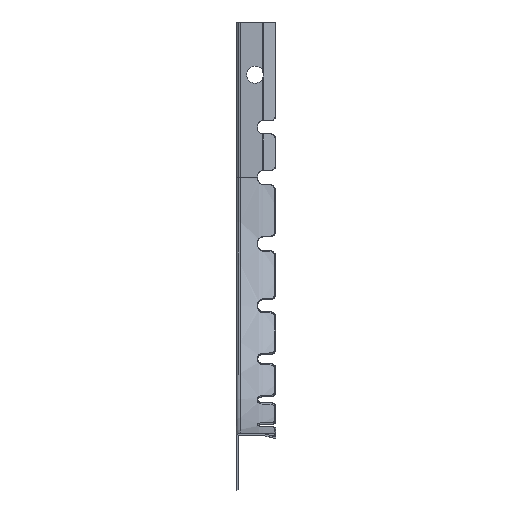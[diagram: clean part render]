
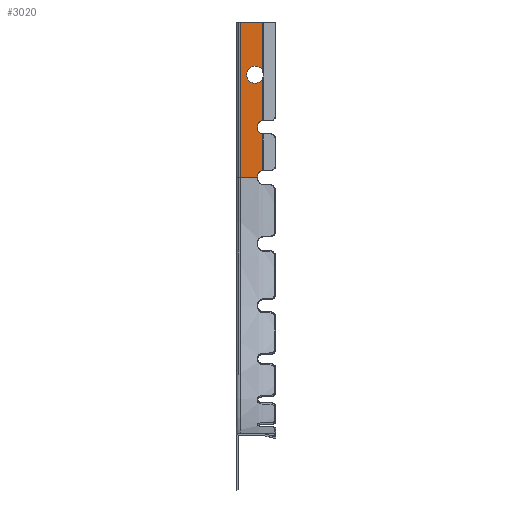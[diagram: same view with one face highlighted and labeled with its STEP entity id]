
A CAD part, left-side view. The second image highlights one B-rep face of the part: STEP entity #3020.
In plain terms, the highlighted planar face has unit normal (-1, 0, 0).
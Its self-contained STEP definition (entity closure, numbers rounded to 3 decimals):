
#274 = ORIENTED_EDGE ( 'NONE', *, *, #4557, .T. ) ;
#376 = CARTESIAN_POINT ( 'NONE',  ( -100.7, -9.445, 216.5 ) ) ;
#421 = CARTESIAN_POINT ( 'NONE',  ( -100.7, 0., 198.01 ) ) ;
#636 = VERTEX_POINT ( 'NONE', #1815 ) ;
#782 = ORIENTED_EDGE ( 'NONE', *, *, #2922, .T. ) ;
#1461 = DIRECTION ( 'NONE',  ( 0., 0., 1. ) ) ;
#1463 = CARTESIAN_POINT ( 'NONE',  ( -100.7, -9.195, 200.494 ) ) ;
#1590 = CIRCLE ( 'NONE', #8805, 3.25 ) ;
#1647 = ORIENTED_EDGE ( 'NONE', *, *, #11623, .T. ) ;
#1815 = CARTESIAN_POINT ( 'NONE',  ( -100.7, -7.445, 217.5 ) ) ;
#2224 = VECTOR ( 'NONE', #10717, 1000. ) ;
#2319 = ORIENTED_EDGE ( 'NONE', *, *, #6548, .T. ) ;
#2454 = VERTEX_POINT ( 'NONE', #3292 ) ;
#2540 = AXIS2_PLACEMENT_3D ( 'NONE', #14493, #3384, #7623 ) ;
#2638 = CARTESIAN_POINT ( 'NONE',  ( -100.7, -6.445, 237. ) ) ;
#2697 = VERTEX_POINT ( 'NONE', #5182 ) ;
#2724 = DIRECTION ( 'NONE',  ( 0., 1., 0. ) ) ;
#2922 = EDGE_CURVE ( 'NONE', #8990, #3244, #9379, .T. ) ;
#2986 = CARTESIAN_POINT ( 'NONE',  ( -100.7, -0.8, 257. ) ) ;
#3020 = ADVANCED_FACE ( 'NONE', ( #11856 ), #17612, .F. ) ;
#3244 = VERTEX_POINT ( 'NONE', #7282 ) ;
#3292 = CARTESIAN_POINT ( 'NONE',  ( -100.7, -7.445, 198.01 ) ) ;
#3337 = DIRECTION ( 'NONE',  ( 0., 0., 1. ) ) ;
#3340 = VECTOR ( 'NONE', #10076, 1000. ) ;
#3384 = DIRECTION ( 'NONE',  ( 1., 0., 0. ) ) ;
#3629 = VECTOR ( 'NONE', #8453, 1000. ) ;
#3737 = DIRECTION ( 'NONE',  ( 0., 0., 1. ) ) ;
#3817 = CARTESIAN_POINT ( 'NONE',  ( -100.7, -9.445, 217.5 ) ) ;
#3840 = CARTESIAN_POINT ( 'NONE',  ( -100.7, -9.3, 257. ) ) ;
#3997 = EDGE_CURVE ( 'NONE', #11663, #17092, #1590, .T. ) ;
#4113 = CARTESIAN_POINT ( 'NONE',  ( -100.7, -9.195, 198.01 ) ) ;
#4491 = DIRECTION ( 'NONE',  ( 0., 1., 0. ) ) ;
#4503 = CIRCLE ( 'NONE', #11738, 2. ) ;
#4557 = EDGE_CURVE ( 'NONE', #2454, #8495, #4910, .T. ) ;
#4768 = CIRCLE ( 'NONE', #12283, 3.25 ) ;
#4910 = LINE ( 'NONE', #4992, #5635 ) ;
#4934 = EDGE_LOOP ( 'NONE', ( #7772, #2319, #11956, #1647, #17582, #16184, #16615, #274, #9056, #10492, #782, #13119, #12113, #7194 ) ) ;
#4992 = CARTESIAN_POINT ( 'NONE',  ( -100.7, -7.445, 195.51 ) ) ;
#5182 = CARTESIAN_POINT ( 'NONE',  ( -100.7, -6.445, 240.25 ) ) ;
#5189 = LINE ( 'NONE', #3840, #2224 ) ;
#5450 = CARTESIAN_POINT ( 'NONE',  ( -100.7, -9.195, 219.484 ) ) ;
#5465 = LINE ( 'NONE', #4113, #3340 ) ;
#5635 = VECTOR ( 'NONE', #10149, 1000. ) ;
#6263 = VERTEX_POINT ( 'NONE', #10060 ) ;
#6454 = EDGE_CURVE ( 'NONE', #2697, #12776, #17471, .T. ) ;
#6548 = EDGE_CURVE ( 'NONE', #17092, #2697, #4768, .T. ) ;
#6644 = CARTESIAN_POINT ( 'NONE',  ( -100.7, -9.195, 257. ) ) ;
#6790 = DIRECTION ( 'NONE',  ( 1., 0., 0. ) ) ;
#6795 = AXIS2_PLACEMENT_3D ( 'NONE', #2638, #6790, #12315 ) ;
#7177 = EDGE_CURVE ( 'NONE', #3244, #636, #12655, .T. ) ;
#7194 = ORIENTED_EDGE ( 'NONE', *, *, #8074, .T. ) ;
#7282 = CARTESIAN_POINT ( 'NONE',  ( -100.7, -7.445, 216.5 ) ) ;
#7623 = DIRECTION ( 'NONE',  ( 0., 1., 0. ) ) ;
#7772 = ORIENTED_EDGE ( 'NONE', *, *, #3997, .T. ) ;
#8074 = EDGE_CURVE ( 'NONE', #9950, #11663, #5465, .T. ) ;
#8100 = EDGE_CURVE ( 'NONE', #17750, #8990, #10161, .T. ) ;
#8453 = DIRECTION ( 'NONE',  ( 0., 0., 1. ) ) ;
#8495 = VERTEX_POINT ( 'NONE', #12461 ) ;
#8629 = CARTESIAN_POINT ( 'NONE',  ( -100.7, -9.195, 198.01 ) ) ;
#8805 = AXIS2_PLACEMENT_3D ( 'NONE', #13579, #15103, #1461 ) ;
#8990 = VERTEX_POINT ( 'NONE', #17594 ) ;
#9039 = DIRECTION ( 'NONE',  ( 1., 0., 0. ) ) ;
#9056 = ORIENTED_EDGE ( 'NONE', *, *, #17602, .T. ) ;
#9250 = DIRECTION ( 'NONE',  ( 0., 0., 1. ) ) ;
#9330 = CARTESIAN_POINT ( 'NONE',  ( -100.7, -9.195, 198.01 ) ) ;
#9379 = CIRCLE ( 'NONE', #17746, 2. ) ;
#9402 = EDGE_CURVE ( 'NONE', #636, #9950, #4503, .T. ) ;
#9748 = EDGE_CURVE ( 'NONE', #6263, #10085, #5189, .T. ) ;
#9773 = LINE ( 'NONE', #2986, #12957 ) ;
#9950 = VERTEX_POINT ( 'NONE', #5450 ) ;
#10060 = CARTESIAN_POINT ( 'NONE',  ( -100.7, -0.8, 257. ) ) ;
#10076 = DIRECTION ( 'NONE',  ( 0., 0., 1. ) ) ;
#10085 = VERTEX_POINT ( 'NONE', #6644 ) ;
#10100 = LINE ( 'NONE', #421, #16627 ) ;
#10149 = DIRECTION ( 'NONE',  ( 0., 0., 1. ) ) ;
#10161 = LINE ( 'NONE', #8629, #3629 ) ;
#10492 = ORIENTED_EDGE ( 'NONE', *, *, #8100, .T. ) ;
#10585 = CARTESIAN_POINT ( 'NONE',  ( -100.7, 0., 257. ) ) ;
#10609 = LINE ( 'NONE', #9330, #10894 ) ;
#10717 = DIRECTION ( 'NONE',  ( 0., -1., 0. ) ) ;
#10875 = EDGE_CURVE ( 'NONE', #2454, #13365, #10100, .T. ) ;
#10894 = VECTOR ( 'NONE', #9250, 1000. ) ;
#11623 = EDGE_CURVE ( 'NONE', #12776, #10085, #10609, .T. ) ;
#11663 = VERTEX_POINT ( 'NONE', #13745 ) ;
#11738 = AXIS2_PLACEMENT_3D ( 'NONE', #3817, #12223, #2724 ) ;
#11856 = FACE_OUTER_BOUND ( 'NONE', #4934, .T. ) ;
#11956 = ORIENTED_EDGE ( 'NONE', *, *, #6454, .T. ) ;
#12113 = ORIENTED_EDGE ( 'NONE', *, *, #9402, .T. ) ;
#12223 = DIRECTION ( 'NONE',  ( 1., 0., 0. ) ) ;
#12283 = AXIS2_PLACEMENT_3D ( 'NONE', #17465, #16109, #3737 ) ;
#12315 = DIRECTION ( 'NONE',  ( 0., 0., 1. ) ) ;
#12461 = CARTESIAN_POINT ( 'NONE',  ( -100.7, -7.445, 198.51 ) ) ;
#12483 = DIRECTION ( 'NONE',  ( 0., 0., 1. ) ) ;
#12577 = VECTOR ( 'NONE', #3337, 1000. ) ;
#12655 = LINE ( 'NONE', #15618, #12577 ) ;
#12776 = VERTEX_POINT ( 'NONE', #16186 ) ;
#12957 = VECTOR ( 'NONE', #12483, 1000. ) ;
#13119 = ORIENTED_EDGE ( 'NONE', *, *, #7177, .T. ) ;
#13288 = DIRECTION ( 'NONE',  ( 0., -1., 0. ) ) ;
#13365 = VERTEX_POINT ( 'NONE', #15246 ) ;
#13579 = CARTESIAN_POINT ( 'NONE',  ( -100.7, -6.445, 237. ) ) ;
#13745 = CARTESIAN_POINT ( 'NONE',  ( -100.7, -9.195, 235.267 ) ) ;
#14493 = CARTESIAN_POINT ( 'NONE',  ( -100.7, -9.445, 198.51 ) ) ;
#14863 = AXIS2_PLACEMENT_3D ( 'NONE', #10585, #9039, #13288 ) ;
#14973 = EDGE_CURVE ( 'NONE', #13365, #6263, #9773, .T. ) ;
#15103 = DIRECTION ( 'NONE',  ( 1., 0., 0. ) ) ;
#15246 = CARTESIAN_POINT ( 'NONE',  ( -100.7, -0.8, 198.01 ) ) ;
#15297 = DIRECTION ( 'NONE',  ( 1., 0., 0. ) ) ;
#15470 = DIRECTION ( 'NONE',  ( 0., 1., 0. ) ) ;
#15524 = CIRCLE ( 'NONE', #2540, 2. ) ;
#15618 = CARTESIAN_POINT ( 'NONE',  ( -100.7, -7.445, 214.5 ) ) ;
#16109 = DIRECTION ( 'NONE',  ( 1., 0., 0. ) ) ;
#16184 = ORIENTED_EDGE ( 'NONE', *, *, #14973, .F. ) ;
#16186 = CARTESIAN_POINT ( 'NONE',  ( -100.7, -9.195, 238.733 ) ) ;
#16615 = ORIENTED_EDGE ( 'NONE', *, *, #10875, .F. ) ;
#16627 = VECTOR ( 'NONE', #4491, 1000. ) ;
#16696 = CARTESIAN_POINT ( 'NONE',  ( -100.7, -6.445, 233.75 ) ) ;
#17092 = VERTEX_POINT ( 'NONE', #16696 ) ;
#17465 = CARTESIAN_POINT ( 'NONE',  ( -100.7, -6.445, 237. ) ) ;
#17471 = CIRCLE ( 'NONE', #6795, 3.25 ) ;
#17582 = ORIENTED_EDGE ( 'NONE', *, *, #9748, .F. ) ;
#17594 = CARTESIAN_POINT ( 'NONE',  ( -100.7, -9.195, 214.516 ) ) ;
#17602 = EDGE_CURVE ( 'NONE', #8495, #17750, #15524, .T. ) ;
#17612 = PLANE ( 'NONE',  #14863 ) ;
#17746 = AXIS2_PLACEMENT_3D ( 'NONE', #376, #15297, #15470 ) ;
#17750 = VERTEX_POINT ( 'NONE', #1463 ) ;
